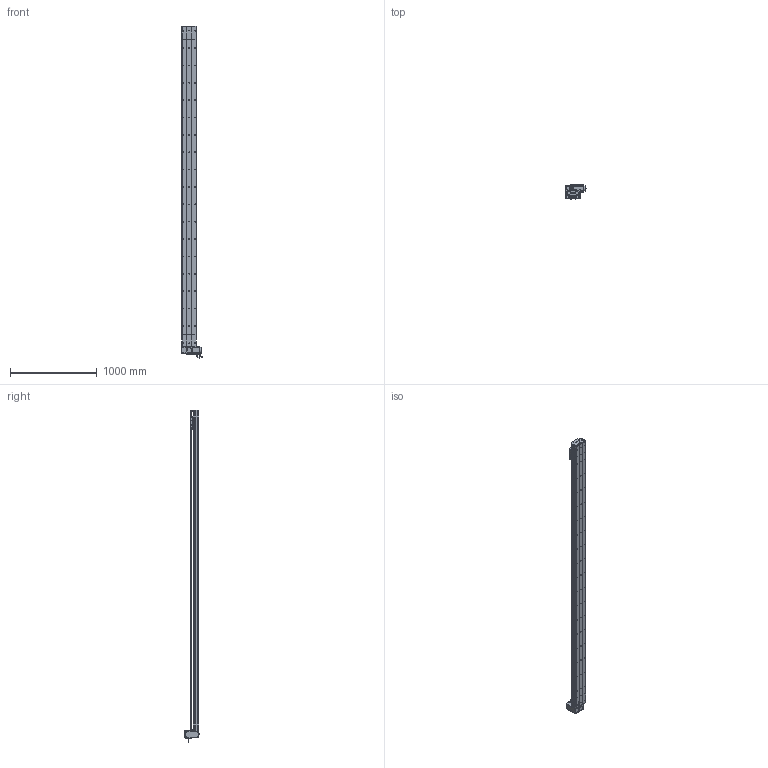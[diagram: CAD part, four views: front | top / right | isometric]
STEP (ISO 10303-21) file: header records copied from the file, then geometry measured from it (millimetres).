
FILE_DESCRIPTION (( 'STEP AP214' ), '1' );
FILE_NAME ('D17 TBH RT S3400.STEP', '2010-06-30T10:36:38', ( 'Christophe Gaillard' ), ( 'SGA' ), 'SwSTEP 2.0', 'SolidWorks 2010', '' );
FILE_SCHEMA (( 'AUTOMOTIVE_DESIGN' ));
Length unit declared in the file: millimetre
Products named in the file (40): tete d''axe poulie D17B; Rail D17B; plaque de  bout tail D17B_Default; poulie tail_Default; cache arbre D17_Default; Couroie tail D17B_Default; couvercle D17B_Default; vis M5 L8 90°_Default; vis M5 L25_Default; vis M5 L70_Default; Conecteur_Default; Conecteur2_Default; codeur 90BLDC125-640; couroie head D17_Default; poulie head_Default; vis M5 L5_Default; corps 90BLDC125A-640; avant 90BLDC125A-640; Moteur motionking 90BLDC125A-640; cache D17_Default; Arbre+rail head D17B; plaque de  bout head D17B RT_Default; couvercle D17B head_Default; corpl head D17 _Default; Head RT D17B_Default; vis M5 L12_Default; Couroie+ rail D17 Course 3400 ; Plaque racord D17_Default; vis M5 L16_Default; Vis M5 L16-2_Default; chariot D17S_Default; Chariot D17; guide D17; D17 TBH RT S3400; course 3400 D17B_Default; corp D17B 3400_Default; couvercle D17B course L3400_Default; Renvoi RT_Default; Tail D17B_Default; corpl tail D17B_Default
Assembly tree (70 placements, depth 4):
  D17 TBH RT S3400
    course 3400 D17B_Default
      Couroie+ rail D17 Course 3400 
      corp D17B 3400_Default
      couvercle D17B course L3400_Default
    Head RT D17B_Default
      vis M5 L70_Default  x4
      Vis M5 L16-2_Default  x4
      cache arbre D17_Default
      vis M5 L12_Default  x8
      cache D17_Default  x2
      Moteur motionking 90BLDC125A-640
        Conecteur_Default
        corps 90BLDC125A-640
        codeur 90BLDC125-640
        Conecteur2_Default
        avant 90BLDC125A-640
      vis M5 L5_Default  x4
      Arbre+rail head D17B
      corpl head D17 _Default
      couvercle D17B head_Default
      vis M5 L16_Default  x2
      vis M5 L25_Default  x2
      poulie head_Default
      couroie head D17_Default
      plaque de  bout head D17B RT_Default
      Plaque racord D17_Default
      Renvoi RT_Default
    Tail D17B_Default
      Rail D17B
      vis M5 L8 90°_Default  x2
      vis M5 L12_Default  x4
      corpl tail D17B_Default
      poulie tail_Default
      plaque de  bout tail D17B_Default
      couvercle D17B_Default
      Couroie tail D17B_Default
      vis M5 L25_Default  x2
      tete d''axe poulie D17B
    chariot D17S_Default
      vis M5 L12_Default  x4
      Chariot D17
      guide D17  x2
Bounding box: 245.2 x 166.15 x 3823.95 mm (x, y, z)
Volume: 21563843.5 mm3; surface area: 6309237.8 mm2
Topology: 94 solids, 94 shells, 2797 faces, 7173 edges, 4614 vertices
Faces by surface type: plane 1607, cylinder 877, bspline 136, cone 88, torus 85, sphere 4
Entity records: 88800 total; most frequent: CARTESIAN_POINT 25961, ORIENTED_EDGE 11118, DIRECTION 10524, EDGE_CURVE 5559, VERTEX_POINT 3638, VECTOR 3582, LINE 3582, AXIS2_PLACEMENT_3D 3471
